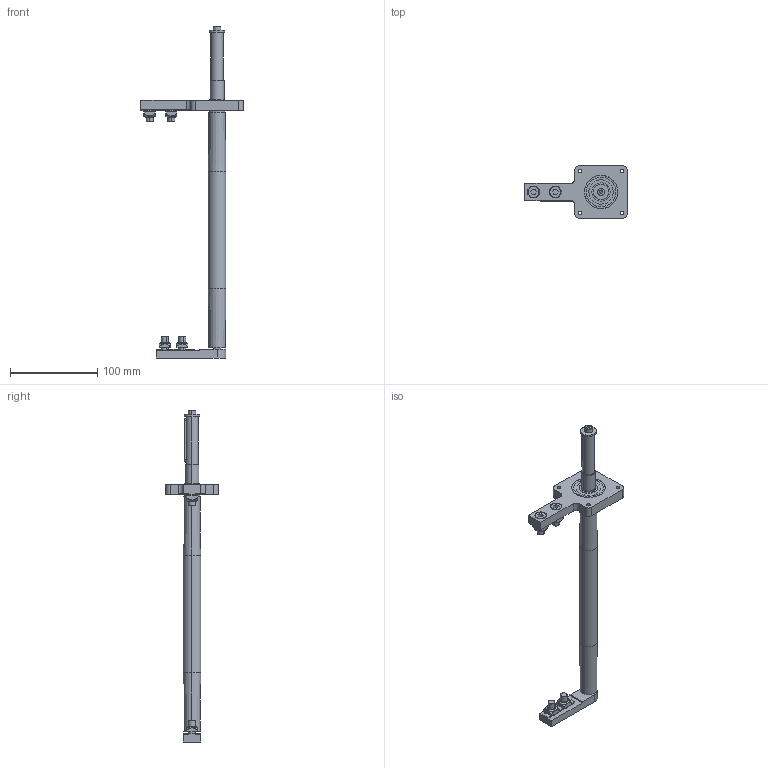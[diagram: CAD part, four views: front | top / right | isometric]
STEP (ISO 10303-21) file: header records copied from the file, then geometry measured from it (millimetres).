
FILE_DESCRIPTION (( 'STEP AP214' ), '1' );
FILE_NAME ('084.020.KD.30.250.STEP', '2021-02-05T13:46:54', ( '' ), ( '' ), 'SwSTEP 2.0', 'SolidWorks 2018', '' );
FILE_SCHEMA (( 'AUTOMOTIVE_DESIGN' ));
Length unit declared in the file: millimetre
Products named in the file (14): 084.800.002; CHIAVETTE_A 5x5x50 UNI 6604-69; 084.301.000 VITI ALUSIC_084.301.003; 084.802.016_084.802.016; 084.020.KD.30.250; 084.302.000 DADI ALUSIC 13x13-1_084.302.004; 084.800.008; 084.800.035; Circlip DIN 471 - 8 x 0.8_Circlip DIN 471 - 8 x 0.8; 084.800.001-1; ISO 4762 M5 x 16 --- 16S_ISO 4762 M5 x 16 --- 16S; Washer ISO 7094 - 5_Washer ISO 7094 - 5; 084.800.007; 084.800.012
Assembly tree (20 placements, depth 2):
  084.020.KD.30.250
    084.800.035
    084.800.001-1
    084.802.016_084.802.016
    084.301.000 VITI ALUSIC_084.301.003  x4
    084.302.000 DADI ALUSIC 13x13-1_084.302.004  x4
    084.800.012  x2
    084.800.008
    084.800.002
    084.800.007
    Washer ISO 7094 - 5_Washer ISO 7094 - 5
    ISO 4762 M5 x 16 --- 16S_ISO 4762 M5 x 16 --- 16S
    CHIAVETTE_A 5x5x50 UNI 6604-69
    Circlip DIN 471 - 8 x 0.8_Circlip DIN 471 - 8 x 0.8
Bounding box: 117.5 x 60 x 381 mm (x, y, z)
Volume: 165602.7 mm3; surface area: 65877.4 mm2
Topology: 21 solids, 22 shells, 600 faces, 1455 edges, 920 vertices
Faces by surface type: cylinder 209, plane 187, cone 106, torus 78, bspline 16, sphere 4
Entity records: 14277 total; most frequent: CARTESIAN_POINT 2672, DIRECTION 2508, ORIENTED_EDGE 2132, EDGE_CURVE 1066, AXIS2_PLACEMENT_3D 1019, VERTEX_POINT 677, CIRCLE 560, EDGE_LOOP 493
